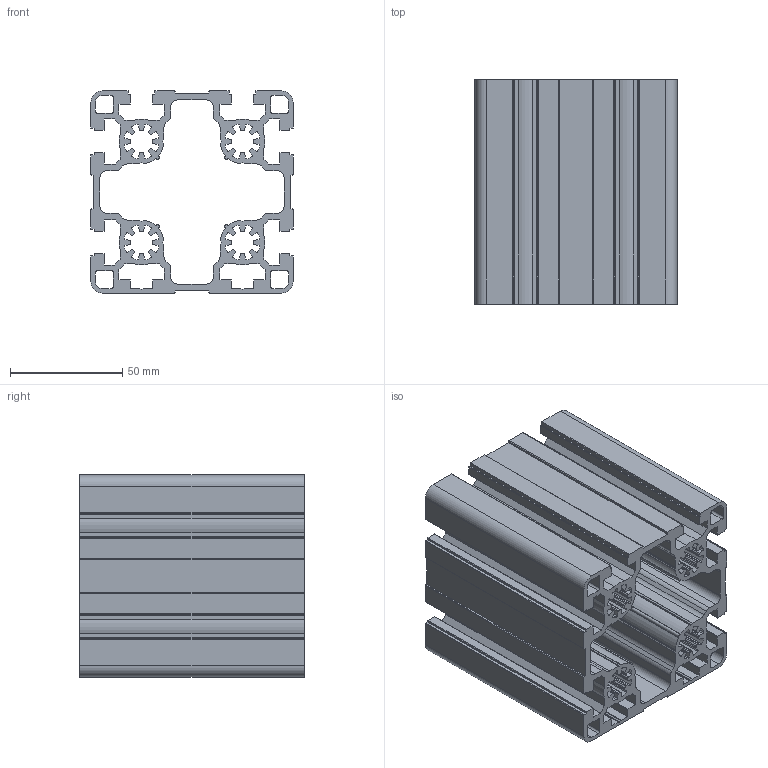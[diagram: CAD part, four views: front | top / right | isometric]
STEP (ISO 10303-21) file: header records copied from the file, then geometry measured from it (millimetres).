
FILE_DESCRIPTION( ( 'Unknown' ), '1' );
FILE_NAME( 'Z:/DBFINAL/Serie1/B-NEU-2018-11-19/B-NEU2019-Entwurf-FINAL/B10-9090L6N.stp', 'Unknown', ( 'Unknown' ), ( 'Unknown' ), 'XStep 1.0', 'Unknown', ' ' );
FILE_SCHEMA( ( 'automotive_design' ) );
Length unit declared in the file: millimetre
Products named in the file (1): 1
Bounding box: 90 x 100 x 90 mm (x, y, z)
Volume: 235954.3 mm3; surface area: 152192.7 mm2
Topology: 1 solids, 1 shells, 606 faces, 1812 edges, 1208 vertices
Faces by surface type: cylinder 342, plane 264
Entity records: 25548 total; most frequent: DIRECTION 3710, CARTESIAN_POINT 3627, ORIENTED_EDGE 3624, EDGE_CURVE 1812, AXIS2_PLACEMENT_3D 1291, VERTEX_POINT 1208, LINE 1128, VECTOR 1128
